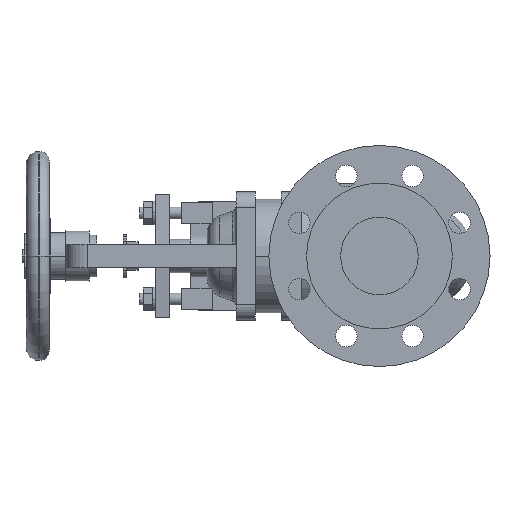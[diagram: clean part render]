
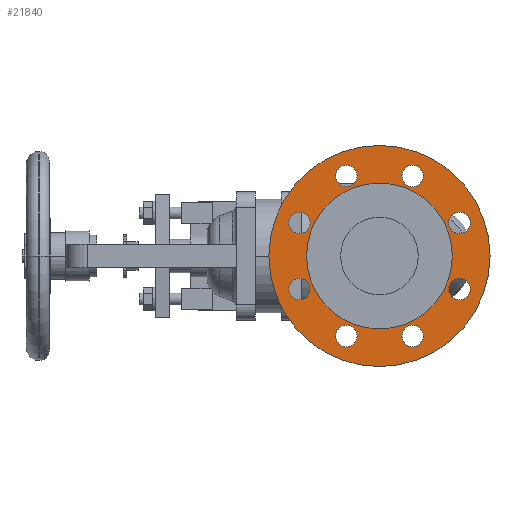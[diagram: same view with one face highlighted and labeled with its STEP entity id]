
A CAD part, left-side view. The second image highlights one B-rep face of the part: STEP entity #21840.
In plain terms, the highlighted planar face has unit normal (-1, 0, 0).
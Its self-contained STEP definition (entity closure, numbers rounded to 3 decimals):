
#11040=CARTESIAN_POINT('',(3.,0.,-92.5));
#11050=VERTEX_POINT('',#11040);
#11080=CARTESIAN_POINT('',(3.,0.,0.));
#11090=DIRECTION('',(1.,0.,0.));
#11100=DIRECTION('',(0.,0.,-1.));
#11110=AXIS2_PLACEMENT_3D('',#11080,#11090,#11100);
#11120=CIRCLE('',#11110,92.5);
#11130=CARTESIAN_POINT('',(3.,0.,92.5));
#11140=VERTEX_POINT('',#11130);
#11150=EDGE_CURVE('',#11140,#11050,#11120,.T.);
#11530=CARTESIAN_POINT('',(3.,27.745,-57.981));
#11540=VERTEX_POINT('',#11530);
#11700=CARTESIAN_POINT('',(3.,27.745,-75.981));
#11710=VERTEX_POINT('',#11700);
#11740=CARTESIAN_POINT('',(3.,27.745,-66.981));
#11750=DIRECTION('',(-1.,0.,0.));
#11760=DIRECTION('',(0.,0.,-1.));
#11770=AXIS2_PLACEMENT_3D('',#11740,#11750,#11760);
#11780=CIRCLE('',#11770,9.);
#11790=EDGE_CURVE('',#11540,#11710,#11780,.T.);
#12020=CARTESIAN_POINT('',(3.,-27.745,-75.981));
#12030=VERTEX_POINT('',#12020);
#12190=CARTESIAN_POINT('',(3.,-27.745,-57.981));
#12200=VERTEX_POINT('',#12190);
#12230=CARTESIAN_POINT('',(3.,-27.745,-66.981));
#12240=DIRECTION('',(-1.,0.,0.));
#12250=DIRECTION('',(0.,0.,-1.));
#12260=AXIS2_PLACEMENT_3D('',#12230,#12240,#12250);
#12270=CIRCLE('',#12260,9.);
#12280=EDGE_CURVE('',#12030,#12200,#12270,.T.);
#12510=CARTESIAN_POINT('',(3.,66.981,-18.745));
#12520=VERTEX_POINT('',#12510);
#12680=CARTESIAN_POINT('',(3.,66.981,-36.745));
#12690=VERTEX_POINT('',#12680);
#12720=CARTESIAN_POINT('',(3.,66.981,-27.745));
#12730=DIRECTION('',(-1.,0.,0.));
#12740=DIRECTION('',(0.,0.,-1.));
#12750=AXIS2_PLACEMENT_3D('',#12720,#12730,#12740);
#12760=CIRCLE('',#12750,9.);
#12770=EDGE_CURVE('',#12520,#12690,#12760,.T.);
#13000=CARTESIAN_POINT('',(3.,-66.981,-18.745));
#13010=VERTEX_POINT('',#13000);
#13170=CARTESIAN_POINT('',(3.,-66.981,-36.745));
#13180=VERTEX_POINT('',#13170);
#13210=CARTESIAN_POINT('',(3.,-66.981,-27.745));
#13220=DIRECTION('',(-1.,0.,0.));
#13230=DIRECTION('',(0.,0.,-1.));
#13240=AXIS2_PLACEMENT_3D('',#13210,#13220,#13230);
#13250=CIRCLE('',#13240,9.);
#13260=EDGE_CURVE('',#13010,#13180,#13250,.T.);
#13490=CARTESIAN_POINT('',(3.,66.981,18.745));
#13500=VERTEX_POINT('',#13490);
#13530=CARTESIAN_POINT('',(3.,66.981,27.745));
#13540=DIRECTION('',(-1.,0.,0.));
#13550=DIRECTION('',(0.,0.,-1.));
#13560=AXIS2_PLACEMENT_3D('',#13530,#13540,#13550);
#13570=CIRCLE('',#13560,9.);
#13580=CARTESIAN_POINT('',(3.,66.981,36.745));
#13590=VERTEX_POINT('',#13580);
#13600=EDGE_CURVE('',#13590,#13500,#13570,.T.);
#13980=CARTESIAN_POINT('',(3.,-66.981,36.745));
#13990=VERTEX_POINT('',#13980);
#14020=CARTESIAN_POINT('',(3.,-66.981,27.745));
#14030=DIRECTION('',(-1.,0.,0.));
#14040=DIRECTION('',(0.,0.,-1.));
#14050=AXIS2_PLACEMENT_3D('',#14020,#14030,#14040);
#14060=CIRCLE('',#14050,9.);
#14070=CARTESIAN_POINT('',(3.,-66.981,18.745));
#14080=VERTEX_POINT('',#14070);
#14090=EDGE_CURVE('',#14080,#13990,#14060,.T.);
#14470=CARTESIAN_POINT('',(3.,27.745,75.981));
#14480=VERTEX_POINT('',#14470);
#14640=CARTESIAN_POINT('',(3.,27.745,57.981));
#14650=VERTEX_POINT('',#14640);
#14680=CARTESIAN_POINT('',(3.,27.745,66.981));
#14690=DIRECTION('',(-1.,0.,0.));
#14700=DIRECTION('',(0.,0.,-1.));
#14710=AXIS2_PLACEMENT_3D('',#14680,#14690,#14700);
#14720=CIRCLE('',#14710,9.);
#14730=EDGE_CURVE('',#14480,#14650,#14720,.T.);
#14960=CARTESIAN_POINT('',(3.,-27.745,75.981));
#14970=VERTEX_POINT('',#14960);
#15000=CARTESIAN_POINT('',(3.,-27.745,66.981));
#15010=DIRECTION('',(-1.,0.,0.));
#15020=DIRECTION('',(0.,0.,-1.));
#15030=AXIS2_PLACEMENT_3D('',#15000,#15010,#15020);
#15040=CIRCLE('',#15030,9.);
#15050=CARTESIAN_POINT('',(3.,-27.745,57.981));
#15060=VERTEX_POINT('',#15050);
#15070=EDGE_CURVE('',#15060,#14970,#15040,.T.);
#15450=CARTESIAN_POINT('',(3.,61.,0.));
#15460=VERTEX_POINT('',#15450);
#15490=CARTESIAN_POINT('',(3.,0.,0.));
#15500=DIRECTION('',(-1.,0.,0.));
#15510=DIRECTION('',(0.,1.,0.));
#15520=AXIS2_PLACEMENT_3D('',#15490,#15500,#15510);
#15530=CIRCLE('',#15520,61.);
#15540=CARTESIAN_POINT('',(3.,-61.,0.));
#15550=VERTEX_POINT('',#15540);
#15560=EDGE_CURVE('',#15550,#15460,#15530,.T.);
#21290=CARTESIAN_POINT('',(3.,76.75,0.));
#21300=DIRECTION('',(1.,0.,0.));
#21310=DIRECTION('',(0.,-1.,0.));
#21320=AXIS2_PLACEMENT_3D('',#21290,#21300,#21310);
#21330=PLANE('',#21320);
#21340=EDGE_CURVE('',#15460,#15550,#15530,.T.);
#21350=ORIENTED_EDGE('',*,*,#21340,.F.);
#21360=ORIENTED_EDGE('',*,*,#15560,.F.);
#21370=EDGE_LOOP('',(#21360,#21350));
#21380=FACE_BOUND('',#21370,.T.);
#21390=EDGE_CURVE('',#11050,#11140,#11120,.T.);
#21400=ORIENTED_EDGE('',*,*,#21390,.F.);
#21410=ORIENTED_EDGE('',*,*,#11150,.F.);
#21420=EDGE_LOOP('',(#21410,#21400));
#21430=FACE_OUTER_BOUND('',#21420,.T.);
#21440=EDGE_CURVE('',#11710,#11540,#11780,.T.);
#21450=ORIENTED_EDGE('',*,*,#21440,.F.);
#21460=ORIENTED_EDGE('',*,*,#11790,.F.);
#21470=EDGE_LOOP('',(#21460,#21450));
#21480=FACE_BOUND('',#21470,.T.);
#21490=EDGE_CURVE('',#12200,#12030,#12270,.T.);
#21500=ORIENTED_EDGE('',*,*,#21490,.F.);
#21510=ORIENTED_EDGE('',*,*,#12280,.F.);
#21520=EDGE_LOOP('',(#21510,#21500));
#21530=FACE_BOUND('',#21520,.T.);
#21540=EDGE_CURVE('',#12690,#12520,#12760,.T.);
#21550=ORIENTED_EDGE('',*,*,#21540,.F.);
#21560=ORIENTED_EDGE('',*,*,#12770,.F.);
#21570=EDGE_LOOP('',(#21560,#21550));
#21580=FACE_BOUND('',#21570,.T.);
#21590=EDGE_CURVE('',#13180,#13010,#13250,.T.);
#21600=ORIENTED_EDGE('',*,*,#21590,.F.);
#21610=ORIENTED_EDGE('',*,*,#13260,.F.);
#21620=EDGE_LOOP('',(#21610,#21600));
#21630=FACE_BOUND('',#21620,.T.);
#21640=EDGE_CURVE('',#13500,#13590,#13570,.T.);
#21650=ORIENTED_EDGE('',*,*,#21640,.F.);
#21660=ORIENTED_EDGE('',*,*,#13600,.F.);
#21670=EDGE_LOOP('',(#21660,#21650));
#21680=FACE_BOUND('',#21670,.T.);
#21690=ORIENTED_EDGE('',*,*,#14090,.F.);
#21700=EDGE_CURVE('',#13990,#14080,#14060,.T.);
#21710=ORIENTED_EDGE('',*,*,#21700,.F.);
#21720=EDGE_LOOP('',(#21710,#21690));
#21730=FACE_BOUND('',#21720,.T.);
#21740=EDGE_CURVE('',#14650,#14480,#14720,.T.);
#21750=ORIENTED_EDGE('',*,*,#21740,.F.);
#21760=ORIENTED_EDGE('',*,*,#14730,.F.);
#21770=EDGE_LOOP('',(#21760,#21750));
#21780=FACE_BOUND('',#21770,.T.);
#21790=ORIENTED_EDGE('',*,*,#15070,.F.);
#21800=EDGE_CURVE('',#14970,#15060,#15040,.T.);
#21810=ORIENTED_EDGE('',*,*,#21800,.F.);
#21820=EDGE_LOOP('',(#21810,#21790));
#21830=FACE_BOUND('',#21820,.T.);
#21840=ADVANCED_FACE('',(#21380,#21430,#21480,#21530,#21580,#21630,
#21680,#21730,#21780,#21830),#21330,.F.);
